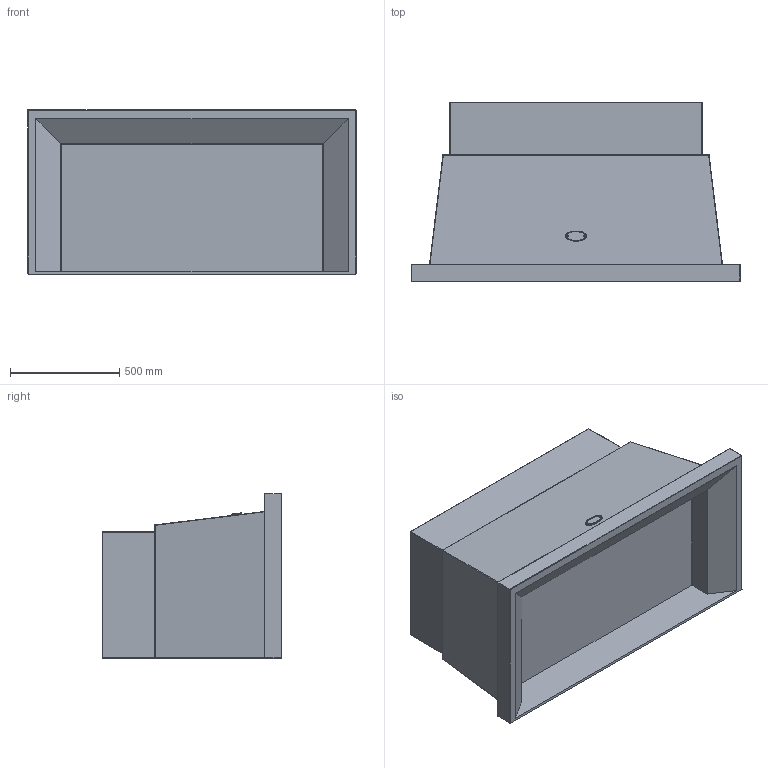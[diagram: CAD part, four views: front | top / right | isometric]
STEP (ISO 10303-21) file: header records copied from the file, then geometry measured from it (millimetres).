
FILE_DESCRIPTION((''),'2;1');
FILE_NAME('EXPORT_LHM1500_ASM','2020-10-27T09:40:46',('r.avril'),(''),'CREO PARAMETRIC BY PTC INC, 2017260','CREO PARAMETRIC BY PTC INC, 2017260','');
FILE_SCHEMA(('AP203_CONFIGURATION_CONTROLLED_3D_DESIGN_OF_MECHANICAL_PARTS_AND_ASSEMBLIES_MIM_LF { 1 0 10303 403 2 1 2 }'));
Length unit declared in the file: millimetre
Products named in the file (7): EXPORT_LHM1500; 65650001; 65049009; 65049009_GRAVURE; 65049009_ASM; 6531792; EXPORT_LHM1500_ASM
Assembly tree (7 placements, depth 3):
  EXPORT_LHM1500_ASM
    EXPORT_LHM1500
    65650001
    65049009_ASM
      65049009
      65049009_GRAVURE
    6531792  x2
Bounding box: 1500 x 820 x 750 mm (x, y, z)
Volume: 379184329 mm3; surface area: 5986540.9 mm2
Topology: 5 solids, 7 shells, 149 faces, 331 edges, 196 vertices
Faces by surface type: cylinder 60, plane 49, cone 14, sphere 12, bspline 10, torus 2, extrusion 2
Entity records: 8141 total; most frequent: CARTESIAN_POINT 2892, DIRECTION 725, ORIENTED_EDGE 594, EDGE_CURVE 299, AXIS2_PLACEMENT_3D 275, PROPERTY_DEFINITION 270, REPRESENTATION 265, PROPERTY_DEFINITION_REPRESENTATION 265
